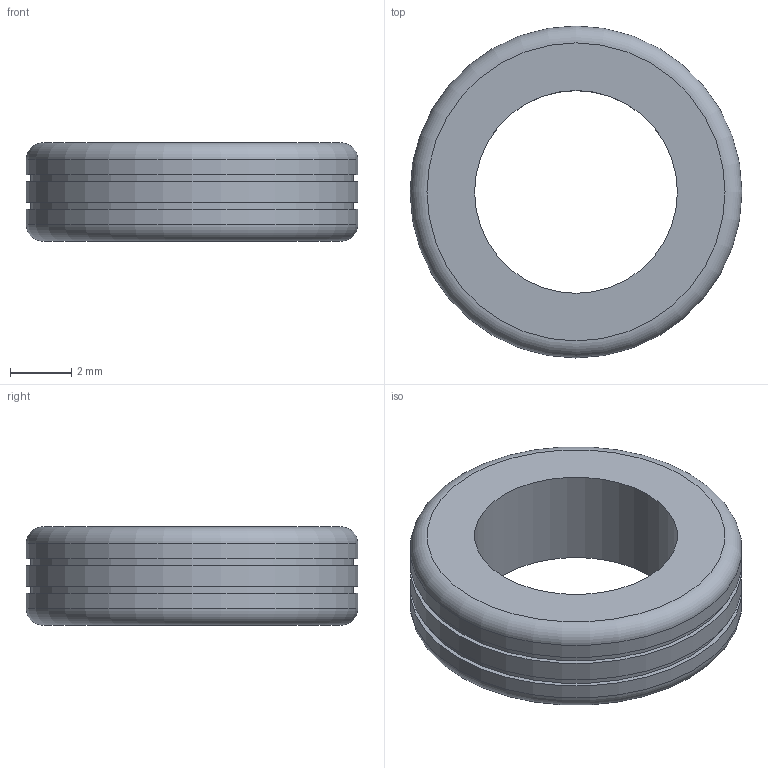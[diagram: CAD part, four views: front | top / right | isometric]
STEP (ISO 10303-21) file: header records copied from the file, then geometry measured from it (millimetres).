
FILE_DESCRIPTION(('Open CASCADE Model'),'2;1');
FILE_NAME('Open CASCADE Shape Model','2026-10-09T16:33:00',('Author'),( 'Open CASCADE'),'Open CASCADE STEP processor 8.0','build123d', 'Unknown');
FILE_SCHEMA(('AUTOMOTIVE_DESIGN { 1 0 10303 214 1 1 1 1 }'));
Length unit declared in the file: millimetre
Products named in the file (1): COMPOUND
Bounding box: 10.8 x 10.8 x 3.2 mm (x, y, z)
Volume: 177 mm3; surface area: 293.1 mm2
Topology: 1 solids, 1 shells, 14 faces, 22 edges, 14 vertices
Faces by surface type: cylinder 6, plane 6, torus 2
Full cylindrical faces by diameter (mm): 6.6 x1, 10.5 x2, 10.8 x3
Entity records: 626 total; most frequent: DIRECTION 112, CARTESIAN_POINT 95, ORIENTED_EDGE 44, PCURVE 44, DEFINITIONAL_REPRESENTATION 44, LINE 38, VECTOR 38, AXIS2_PLACEMENT_3D 31
